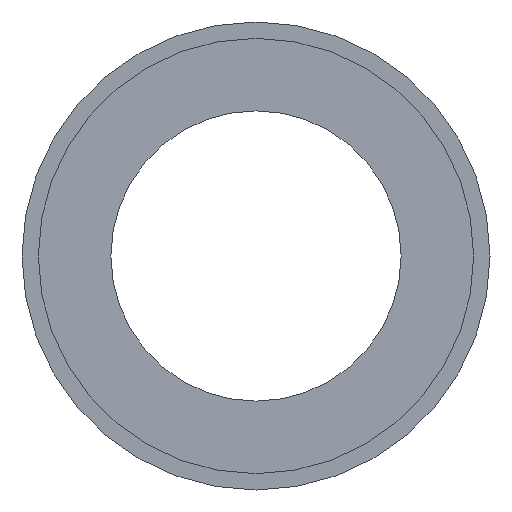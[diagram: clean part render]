
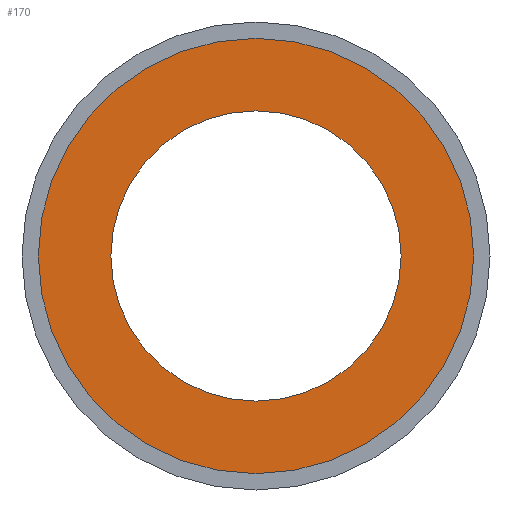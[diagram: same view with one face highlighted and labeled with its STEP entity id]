
A CAD part, front view. The second image highlights one B-rep face of the part: STEP entity #170.
In plain terms, the highlighted planar face has unit normal (0, -1, 0).
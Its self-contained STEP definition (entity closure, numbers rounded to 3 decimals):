
#70 = AXIS2_PLACEMENT_3D ( 'NONE', #1768, #1463, #3473 ) ;
#96 = ORIENTED_EDGE ( 'NONE', *, *, #2885, .F. ) ;
#170 = ADVANCED_FACE ( 'NONE', ( #2275, #552 ), #742, .F. ) ;
#242 = CARTESIAN_POINT ( 'NONE',  ( 0., -20., 0. ) ) ;
#464 = DIRECTION ( 'NONE',  ( 0., 0., 1. ) ) ;
#527 = CARTESIAN_POINT ( 'NONE',  ( 0., -20., 0. ) ) ;
#552 = FACE_OUTER_BOUND ( 'NONE', #3711, .T. ) ;
#676 = CIRCLE ( 'NONE', #686, 40. ) ;
#686 = AXIS2_PLACEMENT_3D ( 'NONE', #527, #1365, #3669 ) ;
#722 = VERTEX_POINT ( 'NONE', #2158 ) ;
#734 = AXIS2_PLACEMENT_3D ( 'NONE', #1059, #1622, #1865 ) ;
#742 = PLANE ( 'NONE',  #1903 ) ;
#1059 = CARTESIAN_POINT ( 'NONE',  ( 0., -20., 0. ) ) ;
#1110 = DIRECTION ( 'NONE',  ( 0., 0., -1. ) ) ;
#1111 = ORIENTED_EDGE ( 'NONE', *, *, #2633, .T. ) ;
#1135 = VERTEX_POINT ( 'NONE', #2876 ) ;
#1235 = VERTEX_POINT ( 'NONE', #3515 ) ;
#1300 = ORIENTED_EDGE ( 'NONE', *, *, #3468, .T. ) ;
#1362 = ORIENTED_EDGE ( 'NONE', *, *, #1539, .F. ) ;
#1365 = DIRECTION ( 'NONE',  ( 0., -1., 0. ) ) ;
#1457 = CIRCLE ( 'NONE', #70, 40. ) ;
#1463 = DIRECTION ( 'NONE',  ( 0., -1., 0. ) ) ;
#1539 = EDGE_CURVE ( 'NONE', #1135, #1235, #676, .T. ) ;
#1540 = CARTESIAN_POINT ( 'NONE',  ( 0., -20., -60. ) ) ;
#1622 = DIRECTION ( 'NONE',  ( 0., -1., 0. ) ) ;
#1725 = AXIS2_PLACEMENT_3D ( 'NONE', #242, #3068, #1110 ) ;
#1768 = CARTESIAN_POINT ( 'NONE',  ( 0., -20., 0. ) ) ;
#1865 = DIRECTION ( 'NONE',  ( 0., 0., -1. ) ) ;
#1903 = AXIS2_PLACEMENT_3D ( 'NONE', #3241, #2719, #464 ) ;
#2158 = CARTESIAN_POINT ( 'NONE',  ( 0., -20., 60. ) ) ;
#2181 = CIRCLE ( 'NONE', #734, 60. ) ;
#2275 = FACE_BOUND ( 'NONE', #3018, .T. ) ;
#2633 = EDGE_CURVE ( 'NONE', #3437, #722, #2181, .T. ) ;
#2719 = DIRECTION ( 'NONE',  ( 0., 1., 0. ) ) ;
#2876 = CARTESIAN_POINT ( 'NONE',  ( 0., -20., -40. ) ) ;
#2885 = EDGE_CURVE ( 'NONE', #1235, #1135, #1457, .T. ) ;
#3018 = EDGE_LOOP ( 'NONE', ( #1362, #96 ) ) ;
#3068 = DIRECTION ( 'NONE',  ( 0., -1., 0. ) ) ;
#3241 = CARTESIAN_POINT ( 'NONE',  ( 0., -20., 40. ) ) ;
#3437 = VERTEX_POINT ( 'NONE', #1540 ) ;
#3468 = EDGE_CURVE ( 'NONE', #722, #3437, #3626, .T. ) ;
#3473 = DIRECTION ( 'NONE',  ( 0., 0., -1. ) ) ;
#3515 = CARTESIAN_POINT ( 'NONE',  ( 0., -20., 40. ) ) ;
#3626 = CIRCLE ( 'NONE', #1725, 60. ) ;
#3669 = DIRECTION ( 'NONE',  ( 0., 0., -1. ) ) ;
#3711 = EDGE_LOOP ( 'NONE', ( #1111, #1300 ) ) ;
